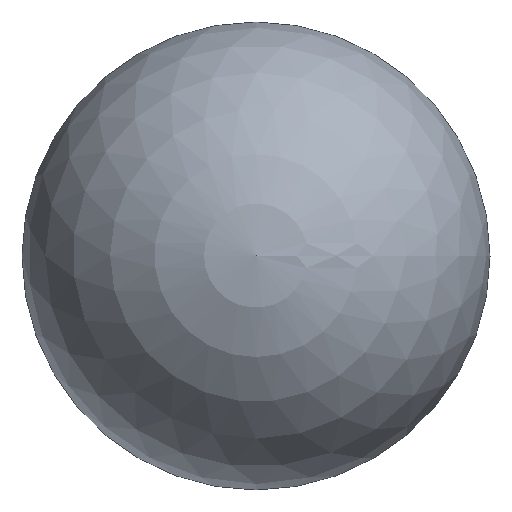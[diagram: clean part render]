
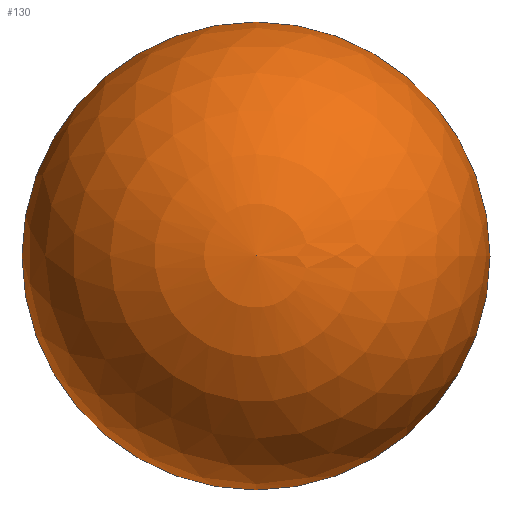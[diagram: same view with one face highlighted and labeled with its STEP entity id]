
A CAD part, top view. The second image highlights one B-rep face of the part: STEP entity #130.
In plain terms, the highlighted spherical face has radius 30 mm.
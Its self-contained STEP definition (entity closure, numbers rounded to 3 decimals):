
#95=CARTESIAN_POINT('',(0.,-0.,50.));
#96=DIRECTION('',(0.,0.,1.));
#97=DIRECTION('',(1.,0.,-0.));
#98=AXIS2_PLACEMENT_3D('',#95,#96,#97);
#99=SPHERICAL_SURFACE('',#98,30.);
#100=CARTESIAN_POINT('',(0.,-0.,80.));
#101=VERTEX_POINT('',#100);
#102=CARTESIAN_POINT('',(30.,0.,50.));
#103=VERTEX_POINT('',#102);
#104=CARTESIAN_POINT('',(0.,-0.,50.));
#105=DIRECTION('',(-0.,1.,-0.));
#106=DIRECTION('',(1.,0.,0.));
#107=AXIS2_PLACEMENT_3D('',#104,#105,#106);
#108=CIRCLE('',#107,30.);
#109=EDGE_CURVE('',#101,#103,#108,.T.);
#110=ORIENTED_EDGE('',*,*,#109,.T.);
#111=CARTESIAN_POINT('',(-30.,-0.,50.));
#112=VERTEX_POINT('',#111);
#113=CARTESIAN_POINT('',(0.,-0.,50.));
#114=DIRECTION('',(0.,0.,-1.));
#115=DIRECTION('',(-1.,0.,0.));
#116=AXIS2_PLACEMENT_3D('',#113,#114,#115);
#117=CIRCLE('',#116,30.);
#118=EDGE_CURVE('',#112,#103,#117,.T.);
#119=ORIENTED_EDGE('',*,*,#118,.F.);
#120=CARTESIAN_POINT('',(0.,-0.,50.));
#121=DIRECTION('',(0.,0.,-1.));
#122=DIRECTION('',(-1.,0.,0.));
#123=AXIS2_PLACEMENT_3D('',#120,#121,#122);
#124=CIRCLE('',#123,30.);
#125=EDGE_CURVE('',#103,#112,#124,.T.);
#126=ORIENTED_EDGE('',*,*,#125,.F.);
#127=ORIENTED_EDGE('',*,*,#109,.F.);
#128=EDGE_LOOP('',(#110,#119,#126,#127));
#129=FACE_BOUND('',#128,.T.);
#130=ADVANCED_FACE('',(#129),#99,.T.);
